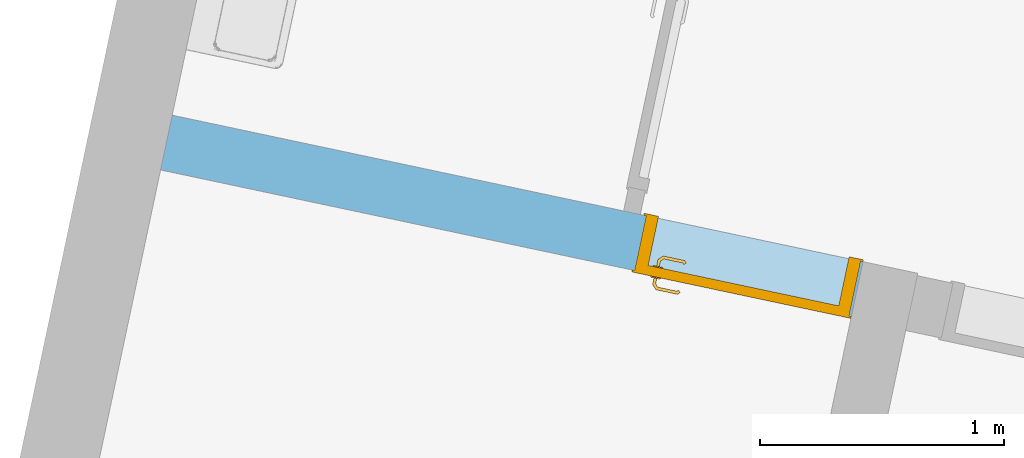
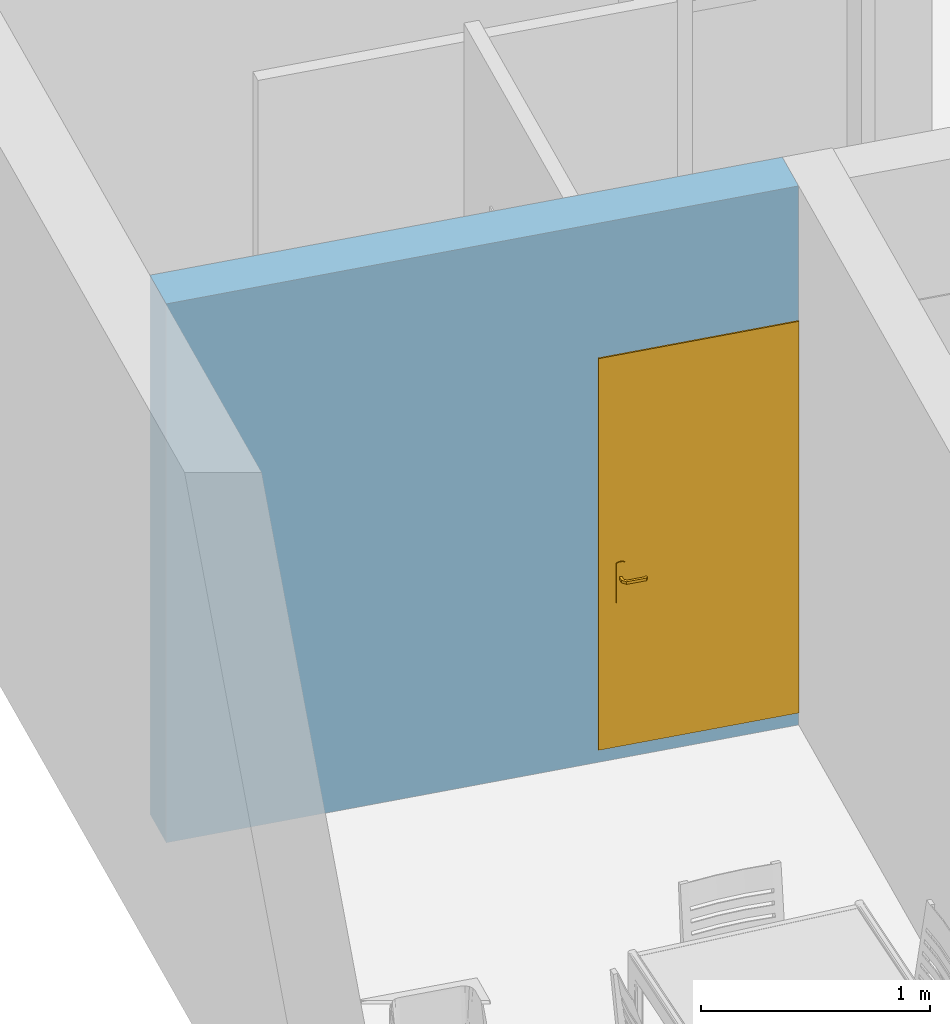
"""IFC2X3 building model written with IfcOpenShell, lengths in metres."""

import ifcopenshell
import ifcopenshell.guid

model = None  # the IFC model being written
_history = None  # IfcOwnerHistory: only IFC2X3 demands one
_inside = {}  # id of a spatial element -> (the spatial element, [elements in it])
_under = {}  # id of a project, library or spatial element -> (it, [spatial elements below it])
_declared = {}  # id of a project -> (the project, [libraries it declares])
_typed = {}  # id of a type object -> (the type object, [elements of that type])
_made_of = {}  # id of a material, layer set ... -> (it, [elements and type objects made of it])


def new_model(schema):
    """Start an empty IFC model of exactly this schema.

    Asked for "IFC4X3", IfcOpenShell would pick the latest addendum, in which some entities
    have other attributes; the version numbers below select the first issue.
    IFC2X3 requires an IfcOwnerHistory on every rooted entity: one is made here for all.
    """
    global model, _history
    if schema == "IFC4X3":
        model = ifcopenshell.file(schema_version=(4, 3, 0, 0))
    else:
        model = ifcopenshell.file(schema=schema)
    _inside.clear()
    _under.clear()
    _declared.clear()
    _typed.clear()
    _made_of.clear()
    _history = None
    if model.schema == "IFC2X3":
        org = make("IfcOrganization", Name="unknown")
        user = make(
            "IfcPersonAndOrganization",
            ThePerson=make("IfcPerson", FamilyName="unknown"),
            TheOrganization=org,
        )
        app = make(
            "IfcApplication",
            ApplicationDeveloper=org,
            Version="unknown",
            ApplicationFullName="unknown",
            ApplicationIdentifier="unknown",
        )
        _history = make(
            "IfcOwnerHistory",
            OwningUser=user,
            OwningApplication=app,
            ChangeAction="ADDED",
            CreationDate=0,
        )
    return model


def make(cls, **values):
    """One entity of the class cls with the attributes given. An attribute that is None is left unset."""
    return model.create_entity(
        cls, **{name: value for name, value in values.items() if value is not None}
    )


def entity(cls, *values):
    """Any entity or typed value of the class cls, its attributes in the order of the schema. None: left unset."""
    e = model.create_entity(cls)
    for i, value in enumerate(values):
        if value is not None:
            e[i] = value
    return e


def rooted(cls, **values):
    """An entity with a GlobalId (a new one), such as an element, a storey or a relation."""
    return make(cls, GlobalId=ifcopenshell.guid.new(), OwnerHistory=_history, **values)


def si_unit(unit_type, name, prefix=None):
    """IfcSIUnit, for example si_unit("LENGTHUNIT", "METRE", prefix="MILLI")."""
    return make("IfcSIUnit", UnitType=unit_type, Prefix=prefix, Name=name)


def converted_unit(unit_type, name, factor, base, dimensions=None, offset=None):
    """IfcConversionBasedUnit, such as the inch: factor (a typed value) times the base unit."""
    return make(
        "IfcConversionBasedUnit"
        if offset is None
        else "IfcConversionBasedUnitWithOffset",
        ConversionOffset=offset,
        Dimensions=None
        if dimensions is None
        else entity("IfcDimensionalExponents", *dimensions),
        UnitType=unit_type,
        Name=name,
        ConversionFactor=make(
            "IfcMeasureWithUnit", ValueComponent=factor, UnitComponent=base
        ),
    )


def derived_unit(unit_type, elements):
    """IfcDerivedUnit: a product of units, each with its exponent."""
    return make(
        "IfcDerivedUnit",
        Elements=[
            make("IfcDerivedUnitElement", Unit=unit, Exponent=power)
            for unit, power in elements
        ],
        UnitType=unit_type,
    )


def assignment(units):
    """IfcUnitAssignment: the units of a project."""
    return None if units is None else make("IfcUnitAssignment", Units=units)


def point(xyz):
    """IfcCartesianPoint."""
    return None if xyz is None else make("IfcCartesianPoint", Coordinates=xyz)


def direction(xyz):
    """IfcDirection."""
    return None if xyz is None else make("IfcDirection", DirectionRatios=xyz)


def frame(location, z_axis=None, x_axis=None):
    """IfcAxis2Placement3D, a coordinate frame: its origin and axes. An axis left out is left unset."""
    return make(
        "IfcAxis2Placement3D",
        Location=point(location),
        Axis=direction(z_axis),
        RefDirection=direction(x_axis),
    )


def frame_2d(location, x_axis=None):
    """IfcAxis2Placement2D, a coordinate frame in the plane: its origin and x axis."""
    return make(
        "IfcAxis2Placement2D", Location=point(location), RefDirection=direction(x_axis)
    )


def origin():
    """The frame at (0, 0, 0) with its axes left unset."""
    return frame((0.0, 0.0, 0.0))


def place(relative_to, where):
    """IfcLocalPlacement: puts the frame where relative to a parent placement (None: the world)."""
    return make(
        "IfcLocalPlacement", PlacementRelTo=relative_to, RelativePlacement=where
    )


def context(
    kind, dimensions, precision=None, world=None, true_north=None, identifier=None
):
    """IfcGeometricRepresentationContext, for example the 3D "Model" context."""
    return make(
        "IfcGeometricRepresentationContext",
        ContextIdentifier=identifier,
        ContextType=kind,
        CoordinateSpaceDimension=dimensions,
        Precision=precision,
        WorldCoordinateSystem=world,
        TrueNorth=true_north,
    )


def subcontext(parent, identifier, kind, view, scale=None):
    """IfcGeometricRepresentationSubContext, for example "Body" below "Model"."""
    return make(
        "IfcGeometricRepresentationSubContext",
        ContextIdentifier=identifier,
        ContextType=kind,
        ParentContext=parent,
        TargetScale=scale,
        TargetView=view,
    )


def project(units=None, contexts=None):
    """IfcProject with its units and contexts."""
    return rooted(
        "IfcProject",
        Name="project",
        RepresentationContexts=contexts,
        UnitsInContext=assignment(units),
    )


def spatial(cls, under=None, at=None, **own):
    """A site, building, storey or space (cls), placed at a placement, below another one or the project."""
    s = rooted(cls, ObjectPlacement=at, **own)
    if under is not None:
        _under.setdefault(under.id(), (under, []))[1].append(s)
    return s


def profile(cls, at=None, kind="AREA", **sizes):
    """A parametric profile (cls). Its sizes go by their IFC names, for example OverallWidth=200.0."""
    return make(cls, ProfileType=kind, Position=at, **sizes)


def rectangle(**sizes):
    """IfcRectangleProfileDef."""
    return profile("IfcRectangleProfileDef", **sizes)


def extrude(swept, where, along, depth):
    """IfcExtrudedAreaSolid: the profile swept, set in the frame where, extruded along a direction by depth."""
    return make(
        "IfcExtrudedAreaSolid",
        SweptArea=swept,
        Position=where,
        ExtrudedDirection=direction(along),
        Depth=depth,
    )


def faces_of(points, faces, orient=None, outer=None):
    """IfcFace entities. A face is a list of loops; a loop is a list of indices into points, from 0.

    orient and outer hold one flag for each loop. By default every Orientation is true, the
    first loop of a face is its IfcFaceOuterBound and the others are IfcFaceBound.
    """
    made = []
    for i, loops in enumerate(faces):
        bounds = []
        for j, loop in enumerate(loops):
            is_outer = j == 0 if outer is None else outer[i][j]
            bounds.append(
                make(
                    "IfcFaceOuterBound" if is_outer else "IfcFaceBound",
                    Bound=make("IfcPolyLoop", Polygon=[points[k] for k in loop]),
                    Orientation=True if orient is None else orient[i][j],
                )
            )
        made.append(make("IfcFace", Bounds=bounds))
    return made


def faceted_brep(points, faces, orient=None, outer=None, voids=None):
    """IfcFacetedBrep: a solid bounded by flat faces; with voids (closed shells), ...WithVoids."""
    shared = [point(p) for p in points]
    hull = make("IfcClosedShell", CfsFaces=faces_of(shared, faces, orient, outer))
    if voids is None:
        return make("IfcFacetedBrep", Outer=hull)
    return make(
        "IfcFacetedBrepWithVoids",
        Outer=hull,
        Voids=[
            make(cls, CfsFaces=faces_of(shared, fs, o, b)) for cls, fs, o, b in voids
        ],
    )


def shape(context_of_items, identifier, shape_type, items):
    """IfcShapeRepresentation: the items that make up one representation, for example the "Body"."""
    return make(
        "IfcShapeRepresentation",
        ContextOfItems=context_of_items,
        RepresentationIdentifier=identifier,
        RepresentationType=shape_type,
        Items=items,
    )


def source(mapping_origin, context_of_items, identifier, shape_type, items):
    """IfcRepresentationMap: a shape defined once, which mapped items show again and again."""
    return make(
        "IfcRepresentationMap",
        MappingOrigin=mapping_origin,
        MappedRepresentation=shape(context_of_items, identifier, shape_type, items),
    )


def transform(
    local_origin,
    x_axis=None,
    y_axis=None,
    z_axis=None,
    scale=None,
    scale2=None,
    scale3=None,
    uniform=True,
):
    """IfcCartesianTransformationOperator3D, or its non-uniform kind. x_axis, y_axis, z_axis: its Axis1, 2, 3."""
    if uniform:
        return make(
            "IfcCartesianTransformationOperator3D",
            Axis1=direction(x_axis),
            Axis2=direction(y_axis),
            LocalOrigin=point(local_origin),
            Scale=scale,
            Axis3=direction(z_axis),
        )
    return make(
        "IfcCartesianTransformationOperator3DnonUniform",
        Axis1=direction(x_axis),
        Axis2=direction(y_axis),
        LocalOrigin=point(local_origin),
        Scale=scale,
        Axis3=direction(z_axis),
        Scale2=scale2,
        Scale3=scale3,
    )


def mapped(mapping_source, mapping_target):
    """IfcMappedItem: shows the shape of a source again, moved by a transform."""
    return make(
        "IfcMappedItem", MappingSource=mapping_source, MappingTarget=mapping_target
    )


def material(Name=None, Category=None):
    """IfcMaterial."""
    return make("IfcMaterial", Name=Name, Category=Category)


def material_list(materials):
    """IfcMaterialList."""
    return make("IfcMaterialList", Materials=materials)


def layer(
    of_material, thickness, ventilated=None, Name=None, Category=None, Priority=None
):
    """IfcMaterialLayer: one layer of a wall or slab, of a material (None: an air gap)."""
    return make(
        "IfcMaterialLayer",
        Material=of_material,
        LayerThickness=thickness,
        IsVentilated=ventilated,
        Name=Name,
        Category=Category,
        Priority=Priority,
    )


def layer_set(layers, Name=None):
    """IfcMaterialLayerSet."""
    return make("IfcMaterialLayerSet", MaterialLayers=layers, LayerSetName=Name)


def layer_usage(for_layer_set, set_direction, sense, offset, extent=None):
    """IfcMaterialLayerSetUsage: how a layer set lies in its element."""
    return make(
        "IfcMaterialLayerSetUsage",
        ForLayerSet=for_layer_set,
        LayerSetDirection=set_direction,
        DirectionSense=sense,
        OffsetFromReferenceLine=offset,
        ReferenceExtent=extent,
    )


def made_of(thing, what):
    """Note that an element or type object is made of a material, layer set ...; save() writes the relation."""
    if what is not None:
        _made_of.setdefault(what.id(), (what, []))[1].append(thing)
    return thing


def type_object(cls, material=None, **own):
    """A type object (cls), such as IfcWallType, which elements share."""
    return made_of(rooted(cls, **own), material)


def type_shapes(of_type, sources):
    """Give a type object the sources (RepresentationMaps) that its elements show as mapped items."""
    of_type.RepresentationMaps = sources


def element(
    cls,
    number,
    at=None,
    inside=None,
    cuts=None,
    type_object=None,
    material=None,
    context=None,
    identifier="Body",
    shape_type=None,
    held_by="IfcProductDefinitionShape",
    body=None,
    shapes=None,
    **own,
):
    """One element of the class cls, such as IfcWall. Its Tag is "e" and its number.

    at: its placement. inside: the storey or other place that contains it. cuts: it is an
    opening in that element (IfcRelVoidsElement). A single representation is given by context,
    identifier, shape_type and body (its items); several are given by shapes. held_by: the class
    of the entity that holds the representations. save() writes the other relations.
    """
    e = rooted(cls, Tag="e%d" % number, ObjectPlacement=at, **own)
    if body is not None:
        shapes = [shape(context, identifier, shape_type, body)]
    if shapes is not None:
        e.Representation = make(held_by, Representations=shapes)
    if inside is not None:
        _inside.setdefault(inside.id(), (inside, []))[1].append(e)
    if cuts is not None:
        rooted(
            "IfcRelVoidsElement", RelatingBuildingElement=cuts, RelatedOpeningElement=e
        )
    if type_object is not None:
        _typed.setdefault(type_object.id(), (type_object, []))[1].append(e)
    return made_of(e, material)


def fill(opening, filler):
    """IfcRelFillsElement: the door or window that sits in an opening."""
    return rooted(
        "IfcRelFillsElement",
        RelatingOpeningElement=opening,
        RelatedBuildingElement=filler,
    )


def aggregate(whole, parts):
    """IfcRelAggregates: a whole, such as a stair, and the parts it consists of."""
    return rooted("IfcRelAggregates", RelatingObject=whole, RelatedObjects=parts)


def save(model, path):
    """Write the relations noted so far, then the file.

    IfcRelAggregates (storeys below a building ...), IfcRelContainedInSpatialStructure (elements
    in a storey), IfcRelDefinesByType, IfcRelAssociatesMaterial and IfcRelDeclares: one each for
    every whole, place, type object, material and project.
    """
    for whole, parts in _under.values():
        aggregate(whole, parts)
    for where, things in _inside.values():
        rooted(
            "IfcRelContainedInSpatialStructure",
            RelatedElements=things,
            RelatingStructure=where,
        )
    for kind, things in _typed.values():
        rooted("IfcRelDefinesByType", RelatedObjects=things, RelatingType=kind)
    for what, things in _made_of.values():
        rooted("IfcRelAssociatesMaterial", RelatedObjects=things, RelatingMaterial=what)
    for by, libraries in _declared.values():
        rooted("IfcRelDeclares", RelatingContext=by, RelatedDefinitions=libraries)
    model.write(path)


model = new_model("IFC2X3")

# Units and contexts
model_context = context("Model", 3, precision=1e-05, world=origin(), true_north=direction((6.12303176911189e-17, 1.0)))
body_context = subcontext(model_context, "Body", "Model", "MODEL_VIEW")
ifc_project = project(units=[si_unit("LENGTHUNIT", "METRE"), si_unit("AREAUNIT", "SQUARE_METRE"), si_unit("VOLUMEUNIT", "CUBIC_METRE"), converted_unit("PLANEANGLEUNIT", "DEGREE", entity("IfcRatioMeasure", 0.0174532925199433), si_unit("PLANEANGLEUNIT", "RADIAN"), dimensions=[0, 0, 0, 0, 0, 0, 0]), si_unit("MASSUNIT", "GRAM", prefix="KILO"), derived_unit("MASSDENSITYUNIT", [(si_unit("MASSUNIT", "GRAM", prefix="KILO"), 1), (si_unit("LENGTHUNIT", "METRE"), -3)]), si_unit("TIMEUNIT", "SECOND"), si_unit("FREQUENCYUNIT", "HERTZ"), si_unit("THERMODYNAMICTEMPERATUREUNIT", "DEGREE_CELSIUS"), derived_unit("THERMALTRANSMITTANCEUNIT", [(si_unit("MASSUNIT", "GRAM", prefix="KILO"), 1), (si_unit("THERMODYNAMICTEMPERATUREUNIT", "KELVIN"), -1), (si_unit("TIMEUNIT", "SECOND"), -3)]), derived_unit("VOLUMETRICFLOWRATEUNIT", [(si_unit("LENGTHUNIT", "METRE"), 3), (si_unit("TIMEUNIT", "SECOND"), -1)]), si_unit("ELECTRICCURRENTUNIT", "AMPERE"), si_unit("ELECTRICVOLTAGEUNIT", "VOLT"), si_unit("POWERUNIT", "WATT"), si_unit("FORCEUNIT", "NEWTON", prefix="KILO"), si_unit("ILLUMINANCEUNIT", "LUX"), si_unit("LUMINOUSFLUXUNIT", "LUMEN"), si_unit("LUMINOUSINTENSITYUNIT", "CANDELA"), derived_unit("USERDEFINED", [(si_unit("MASSUNIT", "GRAM", prefix="KILO"), -1), (si_unit("LENGTHUNIT", "METRE"), -2), (si_unit("TIMEUNIT", "SECOND"), 3), (si_unit("LUMINOUSFLUXUNIT", "LUMEN"), 1)]), derived_unit("LINEARVELOCITYUNIT", [(si_unit("LENGTHUNIT", "METRE"), 1), (si_unit("TIMEUNIT", "SECOND"), -1)]), si_unit("PRESSUREUNIT", "PASCAL"), derived_unit("USERDEFINED", [(si_unit("LENGTHUNIT", "METRE"), -2), (si_unit("MASSUNIT", "GRAM", prefix="KILO"), 1), (si_unit("TIMEUNIT", "SECOND"), -2)])], contexts=[model_context])

# Site, building, storey
site_placement = place(None, origin())
site = spatial("IfcSite", under=ifc_project, at=site_placement, Name="Default", CompositionType="ELEMENT")
building_placement = place(site_placement, origin())
building = spatial("IfcBuilding", under=site, at=building_placement, CompositionType="ELEMENT")
storey_1_placement = place(building_placement, frame((0.0, 0.0, -0.0686871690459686)))
storey_1 = spatial("IfcBuildingStorey", under=building, at=storey_1_placement, Name="RDC", CompositionType="ELEMENT", Elevation=-0.0686871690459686)

# Wall, opening
ifc_material_1 = material(Name="Enduit blanc cassé2")
ifc_layer_1 = layer(ifc_material_1, 0.015)
ifc_material_2 = material(Name="Parpaing")
ifc_layer_2 = layer(ifc_material_2, 0.2)
ifc_layer_3 = layer(ifc_material_1, 0.015)
ifc_layer_set = layer_set([ifc_layer_1, ifc_layer_2, ifc_layer_3], Name="Mur de base:Ext. Parpaing 20 + 2 x 1.5")
ifc_layer_usage = layer_usage(ifc_layer_set, "AXIS2", "NEGATIVE", 0.115)
wall_type = type_object("IfcWallType", Name="Mur de base:Ext. Parpaing 20 + 2 x 1.5", PredefinedType="STANDARD", material=ifc_layer_set)
wall_placement = place(storey_1_placement, frame((-20.8100476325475, 81.0784367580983, 0.0), z_axis=(0.0, 0.0, 1.0), x_axis=(0.978238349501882, -0.20748429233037, 0.0)))
wall = element("IfcWallStandardCase", 1, at=wall_placement, inside=storey_1, type_object=wall_type, material=ifc_layer_usage, Name="Mur de base:Ext. Parpaing 20 + 2 x 1.5", ObjectType="Mur de base:Ext. Parpaing 20 + 2 x 1.5", context=body_context, shape_type="SweptSolid", body=[
    extrude(rectangle(XDim=2.90000000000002, YDim=0.229999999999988, at=frame_2d((1.45000000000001, -1.65145674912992e-15), x_axis=(-1.0, 0.0))), origin(), (0.0, 0.0, 1.0), 2.86868716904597),
])
opening_placement = place(wall_placement, frame((2.89, 0.115000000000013, 0.0686871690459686)))
opening = element("IfcOpeningElement", 2, at=opening_placement, cuts=wall, Name="FR_Simple (R):83 x 204 - (80):1", ObjectType="Opening", context=body_context, shape_type="SweptSolid", body=[
    extrude(rectangle(XDim=2.075, YDim=0.9, at=frame_2d((1.0375, 0.45), x_axis=(1.0, 0.0))), frame((0.0, 0.0, 0.0), z_axis=(0.0, -1.0, 0.0), x_axis=(0.0, 0.0, 1.0)), (0.0, 0.0, 1.0), 0.23),
])

# Storey
storey_2_placement = place(building_placement, origin())
storey_2 = spatial("IfcBuildingStorey", under=building, at=storey_2_placement, Name="Plan des fondations  Maisons 1 et 2", CompositionType="ELEMENT", Elevation=0.0)

# Door
ifc_material_3 = material(Name="Poignée Porte")
ifc_material_4 = material(Name="Dormants Portes")
ifc_material_5 = material(Name="Panneaux Portes")
ifc_material_list_1 = material_list([ifc_material_3, ifc_material_4, ifc_material_5])
ifc_material_list_2 = material_list([ifc_material_3, ifc_material_4, ifc_material_5])
door_style = type_object("IfcDoorStyle", Name="83 x 204 - (80)", ConstructionType="NOTDEFINED", OperationType="SINGLE_SWING_LEFT", ParameterTakesPrecedence=False, Sizeable=False, material=ifc_material_list_2)
shared_shape = source(origin(), body_context, "Body", "Brep", [
    faceted_brep([(0.1003527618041, -0.0130000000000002, 0.766003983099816), (0.109999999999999, -0.0130000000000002, 0.770000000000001), (0.109999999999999, -0.0130000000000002, 0.980000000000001), (0.1003527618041, -0.0130000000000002, 0.983996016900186), (0.0899999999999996, -0.0130000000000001, 0.985358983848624), (0.0796472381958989, -0.0130000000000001, 0.983996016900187), (0.0699999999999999, -0.0130000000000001, 0.980000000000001), (0.0699999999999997, -0.0130000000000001, 0.770000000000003), (0.0796472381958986, -0.0130000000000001, 0.766003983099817), (0.0899999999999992, -0.0130000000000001, 0.764641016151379), (0.1003527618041, -0.00800000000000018, 0.983996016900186), (0.109999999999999, -0.00800000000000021, 0.980000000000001), (0.109999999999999, -0.00800000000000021, 0.770000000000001), (0.1003527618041, -0.00800000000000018, 0.766003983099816), (0.0899999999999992, -0.00800000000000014, 0.764641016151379), (0.0796472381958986, -0.00800000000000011, 0.766003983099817), (0.0699999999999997, -0.00800000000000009, 0.770000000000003), (0.0699999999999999, -0.00800000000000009, 0.980000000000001), (0.0796472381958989, -0.00800000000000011, 0.983996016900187), (0.0899999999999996, -0.00800000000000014, 0.985358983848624)], [[[0, 1, 2, 3, 4, 5, 6, 7, 8, 9]], [[10, 11, 12, 13, 14, 15, 16, 17, 18, 19]], [[16, 15, 8, 7]], [[8, 15, 14, 9]], [[14, 13, 0, 9]], [[13, 12, 1, 0]], [[2, 1, 12, 11]], [[11, 10, 3, 2]], [[3, 10, 19, 4]], [[19, 18, 5, 4]], [[18, 17, 6, 5]], [[7, 6, 17, 16]]]),
    faceted_brep([(0.1003527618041, 0.0319999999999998, 0.766003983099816), (0.109999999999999, 0.0319999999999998, 0.770000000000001), (0.109999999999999, 0.0319999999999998, 0.980000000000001), (0.1003527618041, 0.0319999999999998, 0.983996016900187), (0.0899999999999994, 0.0319999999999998, 0.985358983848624), (0.0796472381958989, 0.0319999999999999, 0.983996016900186), (0.0699999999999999, 0.0319999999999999, 0.980000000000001), (0.0700000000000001, 0.0319999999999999, 0.770000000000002), (0.0796472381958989, 0.0319999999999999, 0.766003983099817), (0.0899999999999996, 0.0319999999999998, 0.764641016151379), (0.1003527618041, 0.0369999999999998, 0.983996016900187), (0.109999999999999, 0.0369999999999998, 0.980000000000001), (0.11, 0.0369999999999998, 0.770000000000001), (0.1003527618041, 0.0369999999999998, 0.766003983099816), (0.0899999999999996, 0.0369999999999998, 0.764641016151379), (0.079647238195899, 0.0369999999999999, 0.766003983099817), (0.0699999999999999, 0.0369999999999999, 0.770000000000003), (0.0699999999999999, 0.0369999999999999, 0.980000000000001), (0.0796472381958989, 0.0369999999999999, 0.983996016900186), (0.0899999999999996, 0.0369999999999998, 0.985358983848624)], [[[0, 1, 2, 3, 4, 5, 6, 7, 8, 9]], [[10, 11, 12, 13, 14, 15, 16, 17, 18, 19]], [[11, 10, 3, 2]], [[3, 10, 19, 4]], [[19, 18, 5, 4]], [[18, 17, 6, 5]], [[7, 6, 17, 16]], [[16, 15, 8, 7]], [[8, 15, 14, 9]], [[14, 13, 0, 9]], [[13, 12, 1, 0]], [[2, 1, 12, 11]]]),
    faceted_brep([(0.0879747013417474, -0.0130000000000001, 0.907780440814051), (0.092025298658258, -0.0130000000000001, 0.907780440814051), (0.0960000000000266, -0.0130000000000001, 0.906999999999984), (0.0960000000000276, -0.0130000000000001, 0.893000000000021), (0.0920252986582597, -0.0130000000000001, 0.89221955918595), (0.0879747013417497, -0.0130000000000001, 0.892219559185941), (0.0839999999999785, -0.0130000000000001, 0.892999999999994), (0.0839999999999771, -0.0130000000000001, 0.90699999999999), (0.0839999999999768, -0.0406509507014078, 0.906999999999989), (0.0879747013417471, -0.039004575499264, 0.907780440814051), (0.10402358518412, -0.0550534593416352, 0.907780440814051), (0.10570139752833, -0.0510028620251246, 0.907780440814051), (0.0920252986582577, -0.0373267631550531, 0.907780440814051), (0.19852181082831, -0.0473891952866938, 0.90778044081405), (0.195657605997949, -0.0445249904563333, 0.90778044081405), (0.189179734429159, -0.0510028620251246, 0.90778044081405), (0.19085754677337, -0.0550534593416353, 0.90778044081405), (0.096000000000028, -0.0356803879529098, 0.90699999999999), (0.0960000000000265, -0.0356803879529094, 0.893000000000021), (0.0920252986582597, -0.0373267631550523, 0.89221955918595), (0.105701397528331, -0.0510028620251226, 0.89221955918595), (0.104023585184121, -0.0550534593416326, 0.89221955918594), (0.0879747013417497, -0.0390045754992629, 0.89221955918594), (0.195657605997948, -0.044524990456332, 0.89221955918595), (0.198521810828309, -0.0473891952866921, 0.89221955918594), (0.190857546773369, -0.0550534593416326, 0.89221955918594), (0.189179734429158, -0.0510028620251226, 0.89221955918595), (0.0839999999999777, -0.0406509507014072, 0.892999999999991), (0.102377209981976, -0.0590281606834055, 0.906999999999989), (0.107347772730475, -0.0470281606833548, 0.90699999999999), (0.107347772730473, -0.0470281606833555, 0.893000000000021), (0.102377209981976, -0.0590281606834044, 0.892999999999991), (0.142307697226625, -0.0590281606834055, 0.906999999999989), (0.147440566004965, -0.0531828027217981, 0.907878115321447), (0.192503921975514, -0.0590281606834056, 0.906999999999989), (0.147440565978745, -0.0470281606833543, 0.90699999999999), (0.187533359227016, -0.0470281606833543, 0.906999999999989), (0.187533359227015, -0.0470281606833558, 0.89300000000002), (0.147440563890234, -0.0470281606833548, 0.893000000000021), (0.14744056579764, -0.0531828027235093, 0.892121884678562), (0.192503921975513, -0.0590281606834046, 0.892999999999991), (0.152573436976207, -0.0590281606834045, 0.892999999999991), (0.192847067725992, -0.0417144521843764, 0.906999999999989), (0.201332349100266, -0.0501997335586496, 0.906999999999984), (0.201332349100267, -0.05019973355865, 0.892999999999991), (0.192847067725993, -0.0417144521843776, 0.893000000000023)], [[[0, 1, 2, 3, 4, 5, 6, 7]], [[8, 9, 0, 7]], [[9, 10, 11, 12, 1, 0]], [[13, 14, 15, 16]], [[12, 17, 2, 1]], [[3, 2, 17, 18]], [[18, 19, 4, 3]], [[19, 20, 21, 22, 5, 4]], [[23, 24, 25, 26]], [[22, 27, 6, 5]], [[7, 6, 27, 8]], [[28, 10, 9, 8]], [[11, 29, 17, 12]], [[18, 17, 29, 30]], [[30, 20, 19, 18]], [[21, 31, 27, 22]], [[8, 27, 31, 28]], [[32, 33, 10]], [[33, 32, 16]], [[10, 28, 32]], [[34, 16, 32]], [[33, 35, 11]], [[11, 10, 33]], [[15, 35, 33]], [[29, 11, 35]], [[35, 15, 36]], [[15, 33, 16]], [[30, 29, 35, 36, 37, 38]], [[20, 38, 39]], [[25, 40, 41]], [[31, 21, 41]], [[41, 21, 39]], [[39, 38, 26]], [[26, 25, 39]], [[38, 20, 30]], [[37, 26, 38]], [[20, 39, 21]], [[41, 39, 25]], [[28, 31, 41, 40, 34, 32]], [[42, 14, 13, 43, 44, 24, 23, 45]], [[43, 13, 16, 34]], [[14, 42, 36, 15]], [[37, 36, 42, 45]], [[45, 23, 26, 37]], [[24, 44, 40, 25]], [[34, 40, 44, 43]]]),
    faceted_brep([(0.0879747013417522, 0.0369999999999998, 0.892219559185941), (0.0920252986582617, 0.0369999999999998, 0.892219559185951), (0.0960000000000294, 0.0369999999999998, 0.893000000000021), (0.0960000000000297, 0.0369999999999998, 0.90699999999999), (0.0920252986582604, 0.0369999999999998, 0.907780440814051), (0.0879747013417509, 0.0369999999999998, 0.907780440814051), (0.0839999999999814, 0.0369999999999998, 0.90699999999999), (0.083999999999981, 0.0369999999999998, 0.892999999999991), (0.0960000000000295, 0.0594852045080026, 0.893000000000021), (0.0960000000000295, 0.0594852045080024, 0.90699999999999), (0.0920252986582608, 0.0611315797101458, 0.907780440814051), (0.105838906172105, 0.0749451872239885, 0.907780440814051), (0.104161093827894, 0.0789957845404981, 0.907780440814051), (0.0879747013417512, 0.0628093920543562, 0.907780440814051), (0.195684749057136, 0.0684673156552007, 0.907780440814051), (0.198548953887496, 0.071331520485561, 0.907780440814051), (0.190884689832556, 0.0789957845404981, 0.907780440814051), (0.189206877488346, 0.0749451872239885, 0.907780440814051), (0.0839999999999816, 0.0644557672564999, 0.90699999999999), (0.0839999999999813, 0.0644557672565, 0.892999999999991), (0.0879747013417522, 0.0628093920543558, 0.892219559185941), (0.104161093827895, 0.0789957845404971, 0.892219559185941), (0.105838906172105, 0.0749451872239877, 0.892219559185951), (0.0920252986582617, 0.0611315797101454, 0.892219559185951), (0.198548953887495, 0.07133152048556, 0.89221955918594), (0.195684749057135, 0.0684673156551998, 0.89221955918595), (0.189206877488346, 0.0749451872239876, 0.89221955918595), (0.190884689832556, 0.0789957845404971, 0.89221955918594), (0.107485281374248, 0.0709704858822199, 0.893000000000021), (0.107485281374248, 0.0709704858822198, 0.90699999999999), (0.102514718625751, 0.0829704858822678, 0.90699999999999), (0.102514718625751, 0.0829704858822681, 0.892999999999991), (0.147522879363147, 0.0709704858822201, 0.89300000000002), (0.187560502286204, 0.0709704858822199, 0.89300000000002), (0.187560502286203, 0.0709704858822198, 0.90699999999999), (0.147522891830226, 0.0709704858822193, 0.90699999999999), (0.147522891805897, 0.0771249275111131, 0.907878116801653), (0.1925310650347, 0.0829704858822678, 0.90699999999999), (0.152600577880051, 0.0829704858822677, 0.90699999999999), (0.1925310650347, 0.082970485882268, 0.892999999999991), (0.142445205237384, 0.0829704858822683, 0.892999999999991), (0.147522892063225, 0.0771249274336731, 0.892121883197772), (0.19287421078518, 0.0656567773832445, 0.89300000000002), (0.201359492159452, 0.0741420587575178, 0.892999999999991), (0.201359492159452, 0.0741420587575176, 0.90699999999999), (0.19287421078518, 0.0656567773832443, 0.90699999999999)], [[[0, 1, 2, 3, 4, 5, 6, 7]], [[3, 2, 8, 9]], [[9, 10, 4, 3]], [[10, 11, 12, 13, 5, 4]], [[14, 15, 16, 17]], [[13, 18, 6, 5]], [[7, 6, 18, 19]], [[19, 20, 0, 7]], [[20, 21, 22, 23, 1, 0]], [[24, 25, 26, 27]], [[23, 8, 2, 1]], [[9, 8, 28, 29]], [[29, 11, 10, 9]], [[12, 30, 18, 13]], [[19, 18, 30, 31]], [[31, 21, 20, 19]], [[22, 28, 8, 23]], [[28, 32, 33, 34, 35, 29]], [[11, 35, 36]], [[16, 37, 38]], [[30, 12, 38]], [[38, 12, 36]], [[36, 35, 17]], [[17, 16, 36]], [[35, 11, 29]], [[34, 17, 35]], [[11, 36, 12]], [[38, 36, 16]], [[31, 30, 38, 37, 39, 40]], [[40, 41, 21]], [[41, 40, 27]], [[21, 31, 40]], [[39, 27, 40]], [[41, 32, 22]], [[22, 21, 41]], [[26, 32, 41]], [[28, 22, 32]], [[32, 26, 33]], [[26, 41, 27]], [[42, 25, 24, 43, 44, 15, 14, 45]], [[34, 33, 42, 45]], [[45, 14, 17, 34]], [[15, 44, 37, 16]], [[39, 37, 44, 43]], [[43, 24, 27, 39]], [[25, 42, 33, 26]]]),
    faceted_brep([(0.0, 0.0, 0.0), (0.0, 0.23000000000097, 0.0), (-0.00999999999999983, 0.23000000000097, 0.0), (-0.00999999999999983, 0.238000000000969, 0.0), (0.0499999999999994, 0.238000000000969, 0.0), (0.0499999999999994, 0.032, 0.0), (0.0349999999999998, 0.032, 0.0), (0.0349999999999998, -0.00799999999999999, 0.0), (-0.00999999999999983, -0.00799999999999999, 0.0), (-0.00999999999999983, 0.0, 0.0), (0.0, 0.0, 2.075), (0.0, 0.23000000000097, 2.075), (0.9, 0.23000000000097, 2.075), (0.9, 0.23000000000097, 0.0), (0.91, 0.23000000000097, 0.0), (0.91, 0.23000000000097, 2.085), (-0.00999999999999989, 0.23000000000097, 2.085), (-0.00999999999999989, 0.238000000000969, 2.085), (0.91, 0.238000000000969, 2.085), (0.91, 0.238000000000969, 0.0), (0.850000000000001, 0.238000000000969, 0.0), (0.850000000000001, 0.238000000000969, 2.025), (0.0499999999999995, 0.238000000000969, 2.025), (0.0499999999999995, 0.032, 2.025), (0.850000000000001, 0.032, 2.025), (0.850000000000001, 0.032, 0.0), (0.865, 0.032, 0.0), (0.865, 0.032, 2.04), (0.0349999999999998, 0.032, 2.04), (0.0349999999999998, -0.00799999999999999, 2.04), (0.865, -0.00799999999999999, 2.04), (0.865, -0.00799999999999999, 0.0), (0.91, -0.00799999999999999, 0.0), (0.91, -0.00799999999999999, 2.085), (-0.00999999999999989, -0.00799999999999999, 2.085), (-0.00999999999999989, 0.0, 2.085), (0.91, 0.0, 2.085), (0.91, 0.0, 0.0), (0.9, 0.0, 0.0), (0.9, 0.0, 2.075)], [[[0, 1, 2, 3, 4, 5, 6, 7, 8, 9]], [[1, 0, 10, 11]], [[2, 1, 11, 12, 13, 14, 15, 16]], [[3, 2, 16, 17]], [[4, 3, 17, 18, 19, 20, 21, 22]], [[5, 4, 22, 23]], [[6, 5, 23, 24, 25, 26, 27, 28]], [[7, 6, 28, 29]], [[8, 7, 29, 30, 31, 32, 33, 34]], [[9, 8, 34, 35]], [[0, 9, 35, 36, 37, 38, 39, 10]], [[11, 10, 39, 12]], [[17, 16, 15, 18]], [[23, 22, 21, 24]], [[29, 28, 27, 30]], [[35, 34, 33, 36]], [[38, 37, 32, 31, 26, 25, 20, 19, 14, 13]], [[12, 39, 38, 13]], [[18, 15, 14, 19]], [[24, 21, 20, 25]], [[30, 27, 26, 31]], [[36, 33, 32, 37]]]),
    faceted_brep([(0.0349999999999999, -0.00799999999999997, 2.04), (0.0349999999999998, -0.00799999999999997, 0.0), (0.865, -0.00799999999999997, 0.0), (0.865, -0.00799999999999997, 2.04), (0.0349999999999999, 0.032, 2.04), (0.865, 0.032, 2.04), (0.865, 0.032, 0.0), (0.0349999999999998, 0.032, 0.0)], [[[0, 1, 2, 3]], [[4, 5, 6, 7]], [[1, 0, 4, 7]], [[2, 1, 7, 6]], [[3, 2, 6, 5]], [[0, 3, 5, 4]]]),
])
type_shapes(door_style, [shared_shape])
door_placement = place(opening_placement, frame((-0.899999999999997, -0.230000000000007, 0.0)))
door = element("IfcDoor", 3, at=door_placement, inside=storey_2, type_object=door_style, material=ifc_material_list_1, Name="FR_Simple (R):83 x 204 - (80)", ObjectType="FR_Simple (R):83 x 204 - (80)", OverallHeight=2.075, OverallWidth=0.899999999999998, context=body_context, shape_type="MappedRepresentation", body=[
    mapped(shared_shape, transform((0.0, 0.0, 0.0), scale=1.0)),
])

fill(opening, door)

save(model, "model.ifc")
